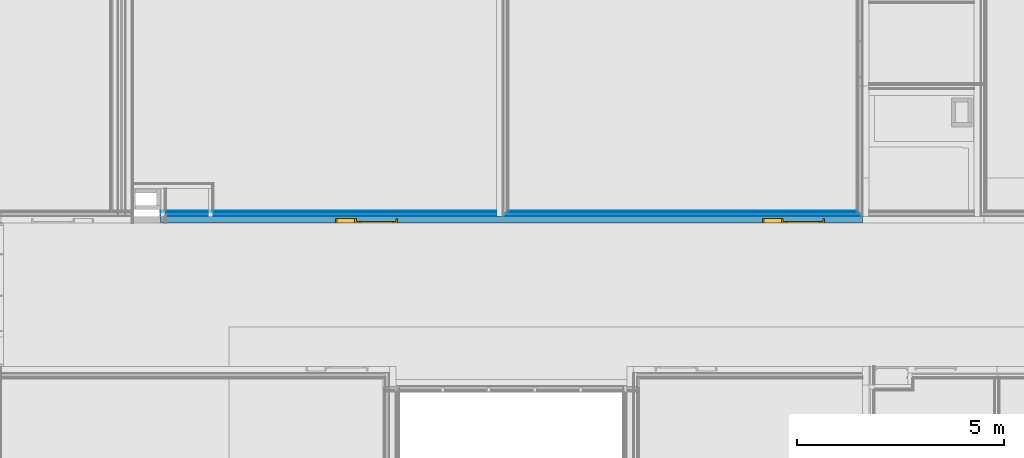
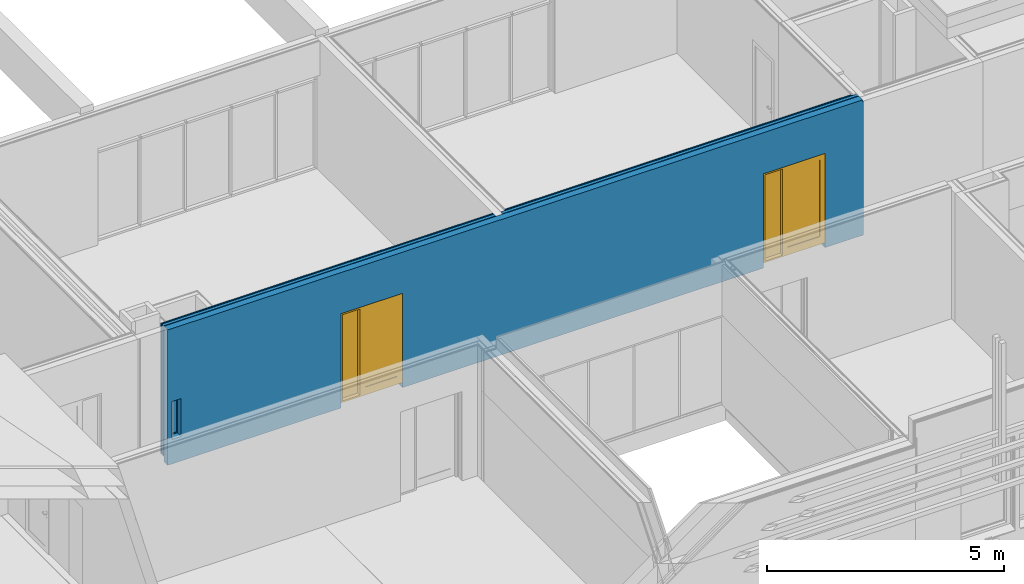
# One storey, part 57 of 139: 7 building element parts, 2 doors, 2 openings, 1 element without a shape of its own.
"""IFC2X3 building model written with IfcOpenShell, lengths in millimetres."""

from ifc_helpers import new_model, entity, si_unit, converted_unit, derived_unit, money_unit, direction, frame, origin_with_axes, place, context, subcontext, project, spatial, open_shell, faceted_brep, surface_model, source, transform, mapped, material, type_object, element, fill, aggregate, save


model = new_model("IFC2X3")

# Units and contexts
model_context = context("Model", 3, precision=0.01, world=origin_with_axes(), true_north=direction((0.0, 1.0)))
body_context = subcontext(model_context, "Body", "Model", "MODEL_VIEW")
ifc_project = project(units=[si_unit("LENGTHUNIT", "METRE", prefix="MILLI"), si_unit("AREAUNIT", "SQUARE_METRE"), si_unit("VOLUMEUNIT", "CUBIC_METRE"), converted_unit("PLANEANGLEUNIT", "DEGREE", entity("IfcPlaneAngleMeasure", 0.0174532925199), si_unit("PLANEANGLEUNIT", "RADIAN"), dimensions=[0, 0, 0, 0, 0, 0, 0]), money_unit("EUR"), converted_unit("TIMEUNIT", "Year", entity("IfcTimeMeasure", 31556926.0), si_unit("TIMEUNIT", "SECOND"), dimensions=[0, 0, 1, 0, 0, 0, 0]), si_unit("MASSUNIT", "GRAM", prefix="KILO"), si_unit("THERMODYNAMICTEMPERATUREUNIT", "DEGREE_CELSIUS"), si_unit("LUMINOUSINTENSITYUNIT", "LUMEN"), si_unit("ENERGYUNIT", "JOULE", prefix="MEGA"), derived_unit("THERMALCONDUCTANCEUNIT", [(si_unit("POWERUNIT", "WATT"), 1), (si_unit("LENGTHUNIT", "METRE"), -1), (si_unit("THERMODYNAMICTEMPERATUREUNIT", "KELVIN"), -1)]), derived_unit("SPECIFICHEATCAPACITYUNIT", [(si_unit("ENERGYUNIT", "JOULE"), 1), (si_unit("MASSUNIT", "GRAM", prefix="KILO"), -1), (si_unit("THERMODYNAMICTEMPERATUREUNIT", "KELVIN"), -1)]), derived_unit("MASSDENSITYUNIT", [(si_unit("MASSUNIT", "GRAM", prefix="KILO"), 1), (si_unit("VOLUMEUNIT", "CUBIC_METRE"), -1)])], contexts=[model_context])

# Site, building, storey
site_placement = place(None, origin_with_axes())
site = spatial("IfcSite", under=ifc_project, at=site_placement, Name="Kolde pst 67a", CompositionType="ELEMENT")
building_placement = place(site_placement, origin_with_axes())
building = spatial("IfcBuilding", under=site, at=building_placement, Name="Riigigümnaasium", CompositionType="ELEMENT")
storey_placement = place(building_placement, frame((0.0, 0.0, 4600.0), z_axis=(0.0, 0.0, 1.0), x_axis=(1.0, 0.0, 0.0)))
storey = spatial("IfcBuildingStorey", under=building, at=storey_placement, Name="2. korrus", CompositionType="ELEMENT", Elevation=4600.0)

# Door
door_style = type_object("IfcDoorStyle", Name="Door with Sidelight on Side 2 25", ConstructionType="NOTDEFINED", OperationType="SINGLE_SWING_LEFT", ParameterTakesPrecedence=False, Sizeable=False)
shared_shape = source(origin_with_axes(), body_context, "Body", "SurfaceModel", [
    faceted_brep([(750.0, 0.0, 0.0), (750.0, -115.0, 0.0), (710.0, -115.0, 0.0), (710.0, 0.0, 0.0), (750.0, 0.0, 2260.0), (750.0, -115.0, 2260.0), (710.0, -115.0, 2260.0), (710.0, -115.0, 40.0), (710.0, 0.0, 40.0), (710.0, 0.0, 2260.0)], [[[0, 1, 2, 3]], [[4, 5, 1, 0]], [[1, 5, 6, 7, 2]], [[3, 2, 7, 8]], [[0, 3, 8, 9, 4]], [[9, 6, 5, 4]], [[8, 7, 6, 9]]]),
    faceted_brep([(250.0, -40.0, 0.0), (250.0, -115.0, 0.0), (250.0, -115.0, 2260.0), (250.0, -40.0, 2260.0), (262.0, -40.0, 0.0), (262.0, 0.0, 0.0), (290.0, 0.0, 0.0), (290.0, -115.0, 0.0), (290.0, -115.0, 40.0), (290.0, -115.0, 2260.0), (262.0, -40.0, 2260.0), (290.0, 0.0, 2260.0), (262.0, 0.0, 2260.0), (290.0, 0.0, 40.0)], [[[0, 1, 2, 3]], [[4, 5, 6, 7, 1, 0]], [[7, 8, 9, 2, 1]], [[10, 3, 2, 9, 11, 12]], [[10, 4, 0, 3]], [[12, 5, 4, 10]], [[12, 11, 13, 6, 5]], [[6, 13, 8, 7]], [[13, 11, 9, 8]]]),
    faceted_brep([(710.0, 0.0, 40.0), (710.0, -115.0, 40.0), (710.0, -115.0, 0.0), (710.0, 0.0, 0.0), (290.0, 0.0, 40.0), (290.0, -115.0, 40.0), (290.0, -115.0, 0.0), (290.0, 0.0, 0.0)], [[[0, 1, 2, 3]], [[4, 5, 1, 0]], [[1, 5, 6, 2]], [[3, 2, 6, 7]], [[0, 3, 7, 4]], [[7, 6, 5, 4]]]),
    faceted_brep([(-722.0, -40.0, 2260.0), (-722.0, 0.0, 2260.0), (-750.0, 0.0, 2260.0), (-750.0, -115.0, 2260.0), (-710.0, -115.0, 2260.0), (-710.0, -40.0, 2260.0), (-722.0, -40.0, 0.0), (-722.0, 0.0, 0.0), (-750.0, 0.0, 0.0), (-750.0, -115.0, 0.0), (-710.0, -115.0, 0.0), (-710.0, -40.0, 0.0)], [[[0, 1, 2, 3, 4, 5]], [[0, 6, 7, 1]], [[7, 8, 2, 1]], [[2, 8, 9, 3]], [[3, 9, 10, 4]], [[5, 4, 10, 11]], [[5, 11, 6, 0]], [[6, 11, 10, 9, 8, 7]]]),
    faceted_brep([(262.0, 0.0, 2272.0), (-722.0, 0.0, 2272.0), (-722.0, 0.0, 2260.0), (-750.0, 0.0, 2260.0), (-750.0, 0.0, 2300.0), (750.0, 0.0, 2300.0), (750.0, 0.0, 2260.0), (710.0, 0.0, 2260.0), (290.0, 0.0, 2260.0), (262.0, 0.0, 2260.0), (262.0, -40.0, 2272.0), (-722.0, -40.0, 2272.0), (-722.0, -40.0, 2260.0), (-710.0, -40.0, 2260.0), (-710.0, -115.0, 2260.0), (-750.0, -115.0, 2260.0), (-750.0, -115.0, 2300.0), (750.0, -115.0, 2300.0), (750.0, -115.0, 2260.0), (710.0, -115.0, 2260.0), (290.0, -115.0, 2260.0), (262.0, -40.0, 2260.0), (250.0, -115.0, 2260.0)], [[[0, 1, 2, 3, 4, 5, 6, 7, 8, 9]], [[0, 10, 11, 1]], [[1, 11, 12, 2]], [[12, 13, 14, 15, 3, 2]], [[4, 3, 15, 16]], [[5, 4, 16, 17]], [[6, 5, 17, 18]], [[7, 6, 18, 19]], [[8, 7, 19, 20]], [[21, 9, 8, 20, 22, 14, 13]], [[9, 21, 10, 0]], [[12, 11, 10, 21, 13]], [[14, 22, 20, 19, 18, 17, 16, 15]]]),
    faceted_brep([(-722.0, 0.0, 200.0), (-622.0, 0.0, 200.0), (-622.0, -40.0, 200.0), (-722.0, -40.0, 200.0), (-722.0, 0.0, 2172.0), (-622.0, 0.0, 2172.0), (-622.0, -40.0, 2172.0), (-722.0, -40.0, 2172.0)], [[[0, 1, 2, 3]], [[0, 4, 5, 1]], [[1, 5, 6, 2]], [[3, 2, 6, 7]], [[4, 0, 3, 7]], [[5, 4, 7, 6]]]),
    faceted_brep([(262.0, 0.0, 200.0), (262.0, 0.0, 2172.0), (262.0, -40.0, 2172.0), (262.0, -40.0, 200.0), (162.0, 0.0, 200.0), (162.0, 0.0, 2172.0), (162.0, -40.0, 2172.0), (162.0, -40.0, 200.0)], [[[0, 1, 2, 3]], [[0, 4, 5, 1]], [[1, 5, 6, 2]], [[3, 2, 6, 7]], [[4, 0, 3, 7]], [[5, 4, 7, 6]]]),
    faceted_brep([(-722.0, 0.0, 0.0), (262.0, 0.0, 0.0), (262.0, -40.0, 0.0), (-722.0, -40.0, 0.0), (-722.0, 0.0, 200.0), (-622.0, 0.0, 200.0), (162.0, 0.0, 200.0), (262.0, 0.0, 200.0), (262.0, -40.0, 200.0), (162.0, -40.0, 200.0), (-622.0, -40.0, 200.0), (-722.0, -40.0, 200.0)], [[[0, 1, 2, 3]], [[0, 4, 5, 6, 7, 1]], [[1, 7, 8, 2]], [[3, 2, 8, 9, 10, 11]], [[4, 0, 3, 11]], [[5, 4, 11, 10]], [[6, 5, 10, 9]], [[7, 6, 9, 8]]]),
    faceted_brep([(-722.0, 0.0, 2272.0), (-722.0, 0.0, 2172.0), (-722.0, -40.0, 2172.0), (-722.0, -40.0, 2272.0), (262.0, 0.0, 2272.0), (262.0, 0.0, 2172.0), (162.0, 0.0, 2172.0), (-622.0, 0.0, 2172.0), (-622.0, -40.0, 2172.0), (162.0, -40.0, 2172.0), (262.0, -40.0, 2172.0), (262.0, -40.0, 2272.0)], [[[0, 1, 2, 3]], [[0, 4, 5, 6, 7, 1]], [[1, 7, 8, 2]], [[3, 2, 8, 9, 10, 11]], [[4, 0, 3, 11]], [[5, 4, 11, 10]], [[6, 5, 10, 9]], [[7, 6, 9, 8]]]),
    surface_model("IfcShellBasedSurfaceModel", [(-622.0, -14.0, 200.0), (-622.0, -14.0, 2172.0), (162.0, -14.0, 2172.0), (162.0, -14.0, 200.0)], [open_shell([[[0, 1, 2, 3]]])]),
    surface_model("IfcShellBasedSurfaceModel", [(-622.0, -26.0, 200.0), (162.0, -26.0, 200.0), (162.0, -26.0, 2172.0), (-622.0, -26.0, 2172.0)], [open_shell([[[0, 1, 2, 3]]])]),
    surface_model("IfcShellBasedSurfaceModel", [(710.0, -91.0, 40.0), (290.0, -91.0, 40.0), (290.0, -91.0, 2260.0), (710.0, -91.0, 2260.0)], [open_shell([[[0, 1, 2, 3]]])]),
    surface_model("IfcShellBasedSurfaceModel", [(710.0, -103.0, 40.0), (710.0, -103.0, 2260.0), (290.0, -103.0, 2260.0), (290.0, -103.0, 40.0)], [open_shell([[[0, 1, 2, 3]]])]),
])
wall_placement = place(storey_placement, frame((24059.8027251, 59349.9979478, -130.0), z_axis=(0.0, 0.0, 1.0), x_axis=(-1.0, 0.0, 0.0)))
opening_1_placement = place(wall_placement, frame((11987.3029951, 0.0, 130.0), z_axis=(0.0, 0.0, 1.0), x_axis=(1.0, 0.0, 0.0)))
door_1_placement = place(opening_1_placement, frame((-750.0, 0.0, 0.0), z_axis=(0.0, 0.0, 1.0), x_axis=(1.0, 0.0, 0.0)))
door_1 = element("IfcDoor", 1, at=door_1_placement, inside=storey, type_object=door_style, Name="Siseuks", ObjectType="DOOR", OverallHeight=2300.0, OverallWidth=1500.0, context=body_context, shape_type="MappedRepresentation", body=[
    mapped(shared_shape, transform((750.0, 0.0, 0.0))),
])

opening_2_placement = place(wall_placement, frame((1684.79999097, 0.0, 130.0), z_axis=(0.0, 0.0, 1.0), x_axis=(1.0, 0.0, 0.0)))
door_2_placement = place(opening_2_placement, frame((-750.0, 0.0, 0.0), z_axis=(0.0, 0.0, 1.0), x_axis=(1.0, 0.0, 0.0)))
door_2 = element("IfcDoor", 2, at=door_2_placement, inside=storey, type_object=door_style, Name="Siseuks", ObjectType="DOOR", OverallHeight=2300.0, OverallWidth=1500.0, context=body_context, shape_type="MappedRepresentation", body=[
    mapped(shared_shape, transform((750.0, 0.0, 0.0))),
])

# Wall, opening
wall_type = type_object("IfcWallType", Name="SS-CLT-16/1_vill75+krohv 52 dB 300", PredefinedType="NOTDEFINED")
wall = element("IfcWall", 3, at=wall_placement, inside=storey, type_object=wall_type, Name="Sisesein")
opening_1 = element("IfcOpeningElement", 4, at=opening_1_placement, cuts=wall, Name="Siseuks", context=body_context, shape_type="Brep", body=[
    faceted_brep([(-750.0, 600.0, 2300.0), (-750.0, 600.0, 0.0), (-750.0, -300.0, 0.0), (-750.0, -300.0, 2300.0), (750.0, 600.0, 2300.0), (750.0, 600.0, 0.0), (750.0, -300.0, 0.0), (750.0, -300.0, 2300.0)], [[[0, 1, 2, 3]], [[0, 4, 5, 1]], [[1, 5, 6, 2]], [[3, 2, 6, 7]], [[4, 0, 3, 7]], [[5, 4, 7, 6]]]),
])

fill(opening_1, door_1)

# Opening
opening_2 = element("IfcOpeningElement", 5, at=opening_2_placement, cuts=wall, Name="Siseuks", context=body_context, shape_type="Brep", body=[
    faceted_brep([(-750.0, 600.0, 2300.0), (-750.0, 600.0, 0.0), (-750.0, -300.0, 0.0), (-750.0, -300.0, 2300.0), (750.0, 600.0, 2300.0), (750.0, 600.0, 0.0), (750.0, -300.0, 0.0), (750.0, -300.0, 2300.0)], [[[0, 1, 2, 3]], [[0, 4, 5, 1]], [[1, 5, 6, 2]], [[3, 2, 6, 7]], [[4, 0, 3, 7]], [[5, 4, 7, 6]]]),
])

fill(opening_2, door_2)

# Building element part
ifc_material_1 = material(Name="_KANDETARIND - CLT ristkihtliimpuit vastavalt EK osale, CLT paigaldusvuugid teibitakse ROTHOBLAAS teibiga")
building_element_part_1_placement = place(wall_placement, origin_with_axes())
building_element_part_1 = element("IfcBuildingElementPart", 6, at=building_element_part_1_placement, material=ifc_material_1, Name="_KANDETARIND - CLT ristkihtliimpuit vastavalt EK osale, CLT paigaldusvuugid teibitakse ROTHOBLAAS teibiga", context=body_context, shape_type="Brep", body=[
    faceted_brep([(16959.8053669, -160.0, 3489.0), (19.7999909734, -160.0, 3489.0), (19.7999909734, -160.0, 3450.0), (0.0, -160.0, 3450.0), (0.0, -160.0, 0.0), (934.799990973, -159.999884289, 0.0), (934.799990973, -159.999884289, 130.0), (934.799990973, -160.0, 2430.0), (2434.79999097, -160.0, 2430.0), (2434.79999097, -159.999884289, 130.0), (2434.79999097, -159.999884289, 0.0), (11237.3029951, -159.999884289, 0.0), (11237.3029951, -159.999884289, 130.0), (11237.3029951, -160.0, 2430.0), (12737.3029951, -160.0, 2430.0), (12737.3029951, -159.999884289, 130.0), (12737.3029951, -159.999884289, 0.0), (16959.8053669, -160.0, 0.0), (16852.1018908, -160.0, 1610.0), (16852.1018908, -160.0, 630.0), (16632.1018908, -160.0, 630.0), (16632.1018908, -160.0, 1610.0), (19.7999909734, 0.0, 3489.0), (16959.8053669, 0.0, 3489.0), (19.7999909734, 0.0, 3450.0), (0.0, 0.0, 3450.0), (0.0, 0.0, 0.0), (934.799990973, 0.0, 0.0), (934.799990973, 0.0, 130.0), (934.799990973, 0.0, 2430.0), (2434.79999097, 0.0, 2430.0), (2434.79999097, 0.0, 130.0), (2434.79999097, 0.0, 0.0), (11237.3029951, 0.0, 0.0), (11237.3029951, 0.0, 130.0), (11237.3029951, 0.0, 2430.0), (12737.3029951, 0.0, 2430.0), (12737.3029951, 0.0, 130.0), (12737.3029951, 0.0, 0.0), (16959.8053669, 0.0, 0.0), (16852.1018908, 0.0, 630.0), (16852.1018908, 0.0, 1610.0), (16632.1018908, 0.0, 630.0), (16632.1018908, 0.0, 1610.0)], [[[0, 1, 2, 3, 4, 5, 6, 7, 8, 9, 10, 11, 12, 13, 14, 15, 16, 17], [18, 19, 20, 21]], [[22, 1, 0, 23]], [[1, 22, 24, 2]], [[3, 2, 24, 25]], [[25, 26, 4, 3]], [[5, 4, 26, 27]], [[27, 28, 6, 5]], [[29, 7, 6, 28]], [[30, 8, 7, 29]], [[31, 9, 8, 30]], [[10, 9, 31, 32]], [[11, 10, 32, 33]], [[34, 12, 11, 33]], [[13, 12, 34, 35]], [[14, 13, 35, 36]], [[15, 14, 36, 37]], [[15, 37, 38, 16]], [[38, 39, 17, 16]], [[23, 0, 17, 39]], [[40, 19, 18, 41]], [[42, 20, 19, 40]], [[43, 21, 20, 42]], [[41, 18, 21, 43]], [[22, 23, 39, 38, 37, 36, 35, 34, 33, 32, 31, 30, 29, 28, 27, 26, 25, 24], [42, 40, 41, 43]]]),
])

ifc_material_2 = material(Name="_ÕHKVAHE")
building_element_part_2_placement = place(wall_placement, origin_with_axes())
building_element_part_2 = element("IfcBuildingElementPart", 7, at=building_element_part_2_placement, material=ifc_material_2, Name="_ÕHKVAHE", context=body_context, shape_type="Brep", body=[
    faceted_brep([(8699.80272515, -175.0, 3489.0), (19.7999909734, -175.0, 3489.0), (19.7999909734, -175.0, 130.0), (934.799990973, -175.0, 130.0), (934.799990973, -175.0, 2430.0), (2434.79999097, -175.0, 2430.0), (2434.79999097, -175.0, 130.0), (8699.80272515, -175.0, 130.0), (19.7999909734, -160.0, 3489.0), (8699.80272515, -160.0, 3489.0), (19.7999909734, -160.0, 3470.0), (19.7999909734, -160.0, 130.0), (934.799990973, -160.0, 130.0), (934.799990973, -160.0, 2430.0), (2434.79999097, -160.0, 2430.0), (2434.79999097, -160.0, 130.0), (8699.80272515, -160.0, 130.0)], [[[0, 1, 2, 3, 4, 5, 6, 7]], [[8, 1, 0, 9]], [[1, 8, 10, 11, 2]], [[11, 12, 3, 2]], [[13, 4, 3, 12]], [[14, 5, 4, 13]], [[15, 6, 5, 14]], [[7, 6, 15, 16]], [[9, 0, 7, 16]], [[8, 9, 16, 15, 14, 13, 12, 11, 10]]]),
    faceted_brep([(16959.8053669, -175.0, 3489.0), (8859.80272515, -175.0, 3489.0), (8859.80272515, -175.0, 130.0), (11237.3029951, -175.0, 130.0), (11237.3029951, -175.0, 2430.0), (12737.3029951, -175.0, 2430.0), (12737.3029951, -175.0, 130.0), (15708.4054206, -175.0, 130.0), (15708.4054206, -175.0, 3480.0), (15808.4054206, -175.0, 3480.0), (15808.4054206, -175.0, 130.0), (16854.8053517, -175.0, 130.0), (16854.8053517, -175.0, 3480.0), (16954.8053517, -175.0, 3480.0), (16954.8053517, -175.0, 130.0), (16959.8053669, -175.0, 130.0), (16632.1018908, -175.0, 1610.0), (16852.1018908, -175.0, 1610.0), (16852.1018908, -175.0, 630.0), (16632.1018908, -175.0, 630.0), (8859.80272515, -159.999999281, 3489.0), (16959.8053669, -159.999999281, 3489.0), (8859.80272515, -159.999884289, 130.0), (11237.3029951, -159.999884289, 130.0), (11237.3029951, -159.999884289, 2430.0), (12737.3029951, -159.999884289, 2430.0), (12737.3029951, -159.999884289, 130.0), (15708.4054206, -159.999884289, 130.0), (15708.4054206, -160.0, 3480.0), (15808.4054206, -160.0, 3480.0), (15808.4054206, -159.999884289, 130.0), (16854.8053517, -159.999884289, 130.0), (16854.8053517, -160.0, 3480.0), (16954.8053517, -160.0, 3480.0), (16954.8053517, -159.999884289, 130.0), (16959.8053669, -159.999884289, 130.0), (16632.1018908, -160.0, 1610.0), (16852.1018908, -160.0, 1610.0), (16852.1018908, -160.0, 630.0), (16632.1018908, -160.0, 630.0)], [[[0, 1, 2, 3, 4, 5, 6, 7, 8, 9, 10, 11, 12, 13, 14, 15], [16, 17, 18, 19]], [[20, 1, 0, 21]], [[1, 20, 22, 2]], [[22, 23, 3, 2]], [[24, 4, 3, 23]], [[25, 5, 4, 24]], [[26, 6, 5, 25]], [[7, 6, 26, 27]], [[7, 27, 28, 8]], [[29, 9, 8, 28]], [[30, 10, 9, 29]], [[11, 10, 30, 31]], [[11, 31, 32, 12]], [[33, 13, 12, 32]], [[34, 14, 13, 33]], [[15, 14, 34, 35]], [[21, 0, 15, 35]], [[36, 37, 17, 16]], [[37, 38, 18, 17]], [[38, 39, 19, 18]], [[39, 36, 16, 19]], [[20, 21, 35, 34, 33, 32, 31, 30, 29, 28, 27, 26, 25, 24, 23, 22], [36, 39, 38, 37]]]),
])

ifc_material_3 = material(Name="_KARKASS - metallkarkass CW 75/50/06 ja UW 75/40/06, samm 600, vahel mineraalvill, helineeldetegur αw = 1.0,  ISOVER ACOUSTIC 75mm või samaväärne")
building_element_part_3_placement = place(wall_placement, origin_with_axes())
building_element_part_3 = element("IfcBuildingElementPart", 8, at=building_element_part_3_placement, material=ifc_material_3, Name="_KARKASS - metallkarkass CW 75/50/06 ja UW 75/40/06, samm 600, vahel mineraalvill, helineeldetegur αw = 1.0,  ISOVER ACOUSTIC 75mm või samaväärne", context=body_context, shape_type="Brep", body=[
    faceted_brep([(8684.80272515, -250.0, 3489.0), (34.7999909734, -250.0, 3489.0), (34.7999909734, -250.0, 130.0), (934.799990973, -250.0, 130.0), (934.799990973, -250.0, 2430.0), (2434.79999097, -250.0, 2430.0), (2434.79999097, -250.0, 130.0), (8684.80272515, -250.0, 130.0), (34.7999909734, -175.0, 3489.0), (8684.80272515, -175.0, 3489.0), (34.7999909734, -175.0, 130.0), (934.799990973, -175.0, 130.0), (934.799990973, -175.0, 2430.0), (2434.79999097, -175.0, 2430.0), (2434.79999097, -175.0, 130.0), (8684.80272515, -175.0, 130.0)], [[[0, 1, 2, 3, 4, 5, 6, 7]], [[8, 1, 0, 9]], [[1, 8, 10, 2]], [[10, 11, 3, 2]], [[12, 4, 3, 11]], [[13, 5, 4, 12]], [[14, 6, 5, 13]], [[7, 6, 14, 15]], [[9, 0, 7, 15]], [[8, 9, 15, 14, 13, 12, 11, 10]]]),
    faceted_brep([(16959.8053669, -250.0, 3489.0), (8859.80272515, -250.0, 3489.0), (8859.80272515, -250.0, 130.0), (11237.3029951, -250.0, 130.0), (11237.3029951, -250.0, 2430.0), (12737.3029951, -250.0, 2430.0), (12737.3029951, -250.0, 130.0), (15708.4054206, -250.0, 130.0), (15708.4054206, -250.0, 3480.0), (15808.4054206, -250.0, 3480.0), (15808.4054206, -250.0, 130.0), (16854.8053517, -250.0, 130.0), (16854.8053517, -250.0, 3480.0), (16954.8053517, -250.0, 3480.0), (16954.8053517, -250.0, 130.0), (16959.8053669, -250.0, 130.0), (8859.80272515, -175.0, 3489.0), (16959.8053669, -175.0, 3489.0), (8859.80272515, -175.0, 130.0), (11237.3029951, -175.0, 130.0), (11237.3029951, -175.0, 2430.0), (12737.3029951, -175.0, 2430.0), (12737.3029951, -175.0, 130.0), (15708.4054206, -175.0, 130.0), (15708.4054206, -175.0, 3480.0), (15808.4054206, -175.0, 3480.0), (15808.4054206, -175.0, 130.0), (16854.8053517, -175.0, 130.0), (16854.8053517, -175.0, 3480.0), (16954.8053517, -175.0, 3480.0), (16954.8053517, -175.0, 130.0), (16959.8053669, -175.0, 130.0), (16632.1018908, -175.0, 1610.0), (16632.1018908, -175.0, 630.0), (16852.1018908, -175.0, 630.0), (16852.1018908, -175.0, 1610.0), (16632.1018908, -200.0, 1610.0), (16632.1018908, -200.0, 630.0), (16852.1018908, -200.0, 630.0), (16852.1018908, -200.0, 1610.0)], [[[0, 1, 2, 3, 4, 5, 6, 7, 8, 9, 10, 11, 12, 13, 14, 15]], [[16, 1, 0, 17]], [[1, 16, 18, 2]], [[18, 19, 3, 2]], [[20, 4, 3, 19]], [[21, 5, 4, 20]], [[22, 6, 5, 21]], [[7, 6, 22, 23]], [[7, 23, 24, 8]], [[25, 9, 8, 24]], [[26, 10, 9, 25]], [[11, 10, 26, 27]], [[11, 27, 28, 12]], [[29, 13, 12, 28]], [[30, 14, 13, 29]], [[15, 14, 30, 31]], [[17, 0, 15, 31]], [[16, 17, 31, 30, 29, 28, 27, 26, 25, 24, 23, 22, 21, 20, 19, 18], [32, 33, 34, 35]], [[36, 37, 33, 32]], [[37, 38, 34, 33]], [[38, 39, 35, 34]], [[39, 36, 32, 35]], [[39, 38, 37, 36]]]),
])

ifc_material_4 = material(Name="_PLAATMATERJAL - OSB3 plaat")
building_element_part_4_placement = place(wall_placement, origin_with_axes())
building_element_part_4 = element("IfcBuildingElementPart", 9, at=building_element_part_4_placement, material=ifc_material_4, Name="_PLAATMATERJAL - OSB3 plaat", context=body_context, shape_type="Brep", body=[
    faceted_brep([(8609.80272515, -260.0, 3489.0), (109.799990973, -260.0, 3489.0), (109.799990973, -260.0, 130.0), (934.799990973, -260.0, 130.0), (934.799990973, -260.0, 2430.0), (2434.79999097, -260.0, 2430.0), (2434.79999097, -260.0, 130.0), (8609.80272515, -260.0, 130.0), (109.799990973, -250.0, 3489.0), (8609.80272515, -250.0, 3489.0), (109.799990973, -250.0, 130.0), (934.799990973, -250.0, 130.0), (934.799990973, -250.0, 2430.0), (2434.79999097, -250.0, 2430.0), (2434.79999097, -250.0, 130.0), (8609.80272515, -250.0, 130.0)], [[[0, 1, 2, 3, 4, 5, 6, 7]], [[8, 1, 0, 9]], [[1, 8, 10, 2]], [[10, 11, 3, 2]], [[12, 4, 3, 11]], [[13, 5, 4, 12]], [[14, 6, 5, 13]], [[7, 6, 14, 15]], [[9, 0, 7, 15]], [[8, 9, 15, 14, 13, 12, 11, 10]]]),
    faceted_brep([(16959.8053669, -260.0, 3489.0), (8859.80272515, -260.0, 3489.0), (8859.80272515, -260.0, 130.0), (11237.3029951, -260.0, 130.0), (11237.3029951, -260.0, 2430.0), (12737.3029951, -260.0, 2430.0), (12737.3029951, -260.0, 130.0), (15708.4054206, -260.0, 130.0), (15708.4054206, -260.0, 3480.0), (15808.4054206, -260.0, 3480.0), (15808.4054206, -260.0, 130.0), (16854.8053517, -260.0, 130.0), (16854.8053517, -260.0, 3480.0), (16954.8053517, -260.0, 3480.0), (16954.8053517, -260.0, 130.0), (16959.8053669, -260.0, 130.0), (8859.80272515, -250.0, 3489.0), (16959.8053669, -250.0, 3489.0), (8859.80272515, -250.0, 130.0), (11237.3029951, -250.0, 130.0), (11237.3029951, -250.0, 2430.0), (12737.3029951, -250.0, 2430.0), (12737.3029951, -250.0, 130.0), (15708.4054206, -250.0, 130.0), (15708.4054206, -250.0, 3480.0), (15808.4054206, -250.0, 3480.0), (15808.4054206, -250.0, 130.0), (16854.8053517, -250.0, 130.0), (16854.8053517, -250.0, 3480.0), (16954.8053517, -250.0, 3480.0), (16954.8053517, -250.0, 130.0), (16959.8053669, -250.0, 130.0)], [[[0, 1, 2, 3, 4, 5, 6, 7, 8, 9, 10, 11, 12, 13, 14, 15]], [[16, 1, 0, 17]], [[1, 16, 18, 2]], [[18, 19, 3, 2]], [[20, 4, 3, 19]], [[21, 5, 4, 20]], [[22, 6, 5, 21]], [[7, 6, 22, 23]], [[7, 23, 24, 8]], [[25, 9, 8, 24]], [[26, 10, 9, 25]], [[11, 10, 26, 27]], [[11, 27, 28, 12]], [[29, 13, 12, 28]], [[30, 14, 13, 29]], [[15, 14, 30, 31]], [[17, 0, 15, 31]], [[16, 17, 31, 30, 29, 28, 27, 26, 25, 24, 23, 22, 21, 20, 19, 18]]]),
])

ifc_material_5 = material(Name="_PLAATMATERJAL - tuletõkkekipsplaat, Knauf Red GKF või samaväärne")
building_element_part_5_placement = place(wall_placement, origin_with_axes())
building_element_part_5 = element("IfcBuildingElementPart", 10, at=building_element_part_5_placement, material=ifc_material_5, Name="_PLAATMATERJAL - tuletõkkekipsplaat, Knauf Red GKF või samaväärne", context=body_context, shape_type="Brep", body=[
    faceted_brep([(8599.80272515, -275.0, 3489.0), (119.799990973, -275.0, 3489.0), (119.799990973, -275.0, 130.0), (934.799990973, -275.0, 130.0), (934.799990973, -275.0, 2430.0), (2434.79999097, -275.0, 2430.0), (2434.79999097, -275.0, 130.0), (8599.80272515, -275.0, 130.0), (119.799990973, -260.0, 3489.0), (8599.80272515, -260.0, 3489.0), (119.799990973, -260.0, 130.0), (934.799990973, -260.0, 130.0), (934.799990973, -260.0, 2430.0), (2434.79999097, -260.0, 2430.0), (2434.79999097, -260.0, 130.0), (8599.80272515, -260.0, 130.0)], [[[0, 1, 2, 3, 4, 5, 6, 7]], [[8, 1, 0, 9]], [[1, 8, 10, 2]], [[10, 11, 3, 2]], [[12, 4, 3, 11]], [[13, 5, 4, 12]], [[14, 6, 5, 13]], [[7, 6, 14, 15]], [[9, 0, 7, 15]], [[8, 9, 15, 14, 13, 12, 11, 10]]]),
    faceted_brep([(16959.8053669, -275.0, 3489.0), (8859.80272515, -275.0, 3489.0), (8859.80272515, -275.0, 130.0), (11237.3029951, -275.0, 130.0), (11237.3029951, -275.0, 2430.0), (12737.3029951, -275.0, 2430.0), (12737.3029951, -275.0, 130.0), (15708.4054206, -275.0, 130.0), (15708.4054206, -275.0, 3480.0), (15808.4054206, -275.0, 3480.0), (15808.4054206, -275.0, 130.0), (16854.8053517, -275.0, 130.0), (16854.8053517, -275.0, 3480.0), (16954.8053517, -275.0, 3480.0), (16954.8053517, -275.0, 130.0), (16959.8053669, -275.0, 130.0), (8859.80272515, -260.0, 3489.0), (16959.8053669, -260.0, 3489.0), (8859.80272515, -260.0, 130.0), (11237.3029951, -260.0, 130.0), (11237.3029951, -260.0, 2430.0), (12737.3029951, -260.0, 2430.0), (12737.3029951, -260.0, 130.0), (15708.4054206, -260.0, 130.0), (15708.4054206, -260.0, 3480.0), (15808.4054206, -260.0, 3480.0), (15808.4054206, -260.0, 130.0), (16854.8053517, -260.0, 130.0), (16854.8053517, -260.0, 3480.0), (16954.8053517, -260.0, 3480.0), (16954.8053517, -260.0, 130.0), (16959.8053669, -260.0, 130.0)], [[[0, 1, 2, 3, 4, 5, 6, 7, 8, 9, 10, 11, 12, 13, 14, 15]], [[16, 1, 0, 17]], [[1, 16, 18, 2]], [[18, 19, 3, 2]], [[20, 4, 3, 19]], [[21, 5, 4, 20]], [[22, 6, 5, 21]], [[7, 6, 22, 23]], [[7, 23, 24, 8]], [[25, 9, 8, 24]], [[26, 10, 9, 25]], [[11, 10, 26, 27]], [[11, 27, 28, 12]], [[29, 13, 12, 28]], [[30, 14, 13, 29]], [[15, 14, 30, 31]], [[17, 0, 15, 31]], [[16, 17, 31, 30, 29, 28, 27, 26, 25, 24, 23, 22, 21, 20, 19, 18]]]),
])

building_element_part_6_placement = place(wall_placement, origin_with_axes())
building_element_part_6 = element("IfcBuildingElementPart", 11, at=building_element_part_6_placement, material=ifc_material_5, Name="_PLAATMATERJAL - tuletõkkekipsplaat, Knauf Red GKF või samaväärne", context=body_context, shape_type="Brep", body=[
    faceted_brep([(8584.80272515, -290.0, 3489.0), (134.799990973, -290.0, 3489.0), (134.799990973, -290.0, 130.0), (934.799990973, -290.0, 130.0), (934.799990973, -290.0, 2430.0), (2434.79999097, -290.0, 2430.0), (2434.79999097, -290.0, 130.0), (8584.80272515, -290.0, 130.0), (134.799990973, -275.0, 3489.0), (8584.80272515, -275.0, 3489.0), (134.799990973, -275.0, 130.0), (934.799990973, -275.0, 130.0), (934.799990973, -275.0, 2430.0), (2434.79999097, -275.0, 2430.0), (2434.79999097, -275.0, 130.0), (8584.80272515, -275.0, 130.0)], [[[0, 1, 2, 3, 4, 5, 6, 7]], [[8, 1, 0, 9]], [[1, 8, 10, 2]], [[10, 11, 3, 2]], [[12, 4, 3, 11]], [[13, 5, 4, 12]], [[14, 6, 5, 13]], [[7, 6, 14, 15]], [[9, 0, 7, 15]], [[8, 9, 15, 14, 13, 12, 11, 10]]]),
    faceted_brep([(16959.8053669, -290.0, 3489.0), (8859.80272515, -290.0, 3489.0), (8859.80272515, -290.0, 130.0), (11237.3029951, -290.0, 130.0), (11237.3029951, -290.0, 2430.0), (12737.3029951, -290.0, 2430.0), (12737.3029951, -290.0, 130.0), (15708.4054206, -290.0, 130.0), (15708.4054206, -290.0, 3480.0), (15808.4054206, -290.0, 3480.0), (15808.4054206, -290.0, 130.0), (16854.8053517, -290.0, 130.0), (16854.8053517, -290.0, 3480.0), (16954.8053517, -290.0, 3480.0), (16954.8053517, -290.0, 130.0), (16959.8053669, -290.0, 130.0), (8859.80272515, -275.0, 3489.0), (16959.8053669, -275.0, 3489.0), (8859.80272515, -275.0, 130.0), (11237.3029951, -275.0, 130.0), (11237.3029951, -275.0, 2430.0), (12737.3029951, -275.0, 2430.0), (12737.3029951, -275.0, 130.0), (15708.4054206, -275.0, 130.0), (15708.4054206, -275.0, 3480.0), (15808.4054206, -275.0, 3480.0), (15808.4054206, -275.0, 130.0), (16854.8053517, -275.0, 130.0), (16854.8053517, -275.0, 3480.0), (16954.8053517, -275.0, 3480.0), (16954.8053517, -275.0, 130.0), (16959.8053669, -275.0, 130.0)], [[[0, 1, 2, 3, 4, 5, 6, 7, 8, 9, 10, 11, 12, 13, 14, 15]], [[16, 1, 0, 17]], [[1, 16, 18, 2]], [[18, 19, 3, 2]], [[20, 4, 3, 19]], [[21, 5, 4, 20]], [[22, 6, 5, 21]], [[7, 6, 22, 23]], [[7, 23, 24, 8]], [[25, 9, 8, 24]], [[26, 10, 9, 25]], [[11, 10, 26, 27]], [[11, 27, 28, 12]], [[29, 13, 12, 28]], [[30, 14, 13, 29]], [[15, 14, 30, 31]], [[17, 0, 15, 31]], [[16, 17, 31, 30, 29, 28, 27, 26, 25, 24, 23, 22, 21, 20, 19, 18]]]),
])

ifc_material_6 = material(Name="_VIIMISTLUSKIHT - viimistlus vastavalt SA osale")
building_element_part_7_placement = place(wall_placement, origin_with_axes())
building_element_part_7 = element("IfcBuildingElementPart", 12, at=building_element_part_7_placement, material=ifc_material_6, Name="_VIIMISTLUSKIHT - viimistlus vastavalt SA osale", context=body_context, shape_type="Brep", body=[
    faceted_brep([(8569.80272515, -300.0, 3489.0), (149.799990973, -300.0, 3489.0), (149.799990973, -300.0, 130.0), (934.799990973, -300.0, 130.0), (934.799990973, -300.0, 2430.0), (2434.79999097, -300.0, 2430.0), (2434.79999097, -300.0, 130.0), (8569.80272515, -300.0, 130.0), (149.799990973, -290.0, 3489.0), (8569.80272515, -290.0, 3489.0), (149.799990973, -290.0, 130.0), (934.799990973, -290.0, 130.0), (934.799990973, -290.0, 2430.0), (2434.79999097, -290.0, 2430.0), (2434.79999097, -290.0, 130.0), (8569.80272515, -290.0, 130.0)], [[[0, 1, 2, 3, 4, 5, 6, 7]], [[8, 1, 0, 9]], [[1, 8, 10, 2]], [[10, 11, 3, 2]], [[12, 4, 3, 11]], [[13, 5, 4, 12]], [[14, 6, 5, 13]], [[7, 6, 14, 15]], [[9, 0, 7, 15]], [[8, 9, 15, 14, 13, 12, 11, 10]]]),
    faceted_brep([(16959.8053669, -300.0, 3489.0), (8859.80272515, -300.0, 3489.0), (8859.80272515, -300.0, 130.0), (11237.3029951, -300.0, 130.0), (11237.3029951, -300.0, 2430.0), (12737.3029951, -300.0, 2430.0), (12737.3029951, -300.0, 130.0), (15683.4054206, -300.0, 130.0), (15683.4054206, -300.0, 3480.0), (15808.4054206, -300.0, 3480.0), (15808.4054206, -300.0, 130.0), (16829.8053517, -300.0, 130.0), (16829.8053517, -300.0, 3480.0), (16954.8053517, -300.0, 3480.0), (16954.8053517, -300.0, 130.0), (16959.8053669, -300.0, 130.0), (8859.80272515, -290.0, 3489.0), (16959.8053669, -290.0, 3489.0), (8859.80272515, -290.0, 130.0), (11237.3029951, -290.0, 130.0), (11237.3029951, -290.0, 2430.0), (12737.3029951, -290.0, 2430.0), (12737.3029951, -290.0, 130.0), (15683.4054206, -290.0, 130.0), (15683.4054206, -290.0, 3480.0), (15808.4054206, -290.0, 3480.0), (15808.4054206, -290.0, 130.0), (16829.8053517, -290.0, 130.0), (16829.8053517, -290.0, 3480.0), (16954.8053517, -290.0, 3480.0), (16954.8053517, -290.0, 130.0), (16959.8053669, -290.0, 130.0)], [[[0, 1, 2, 3, 4, 5, 6, 7, 8, 9, 10, 11, 12, 13, 14, 15]], [[16, 1, 0, 17]], [[1, 16, 18, 2]], [[18, 19, 3, 2]], [[20, 4, 3, 19]], [[21, 5, 4, 20]], [[22, 6, 5, 21]], [[7, 6, 22, 23]], [[7, 23, 24, 8]], [[9, 8, 24, 25]], [[26, 10, 9, 25]], [[11, 10, 26, 27]], [[11, 27, 28, 12]], [[13, 12, 28, 29]], [[30, 14, 13, 29]], [[15, 14, 30, 31]], [[17, 0, 15, 31]], [[16, 17, 31, 30, 29, 28, 27, 26, 25, 24, 23, 22, 21, 20, 19, 18]]]),
])

aggregate(wall, [building_element_part_1, building_element_part_2, building_element_part_3, building_element_part_4, building_element_part_5, building_element_part_6, building_element_part_7])

save(model, "model.ifc")
